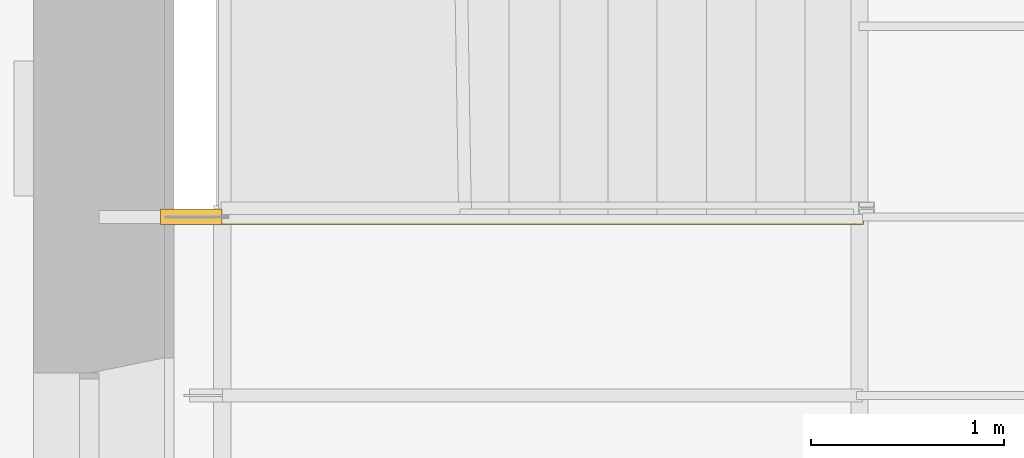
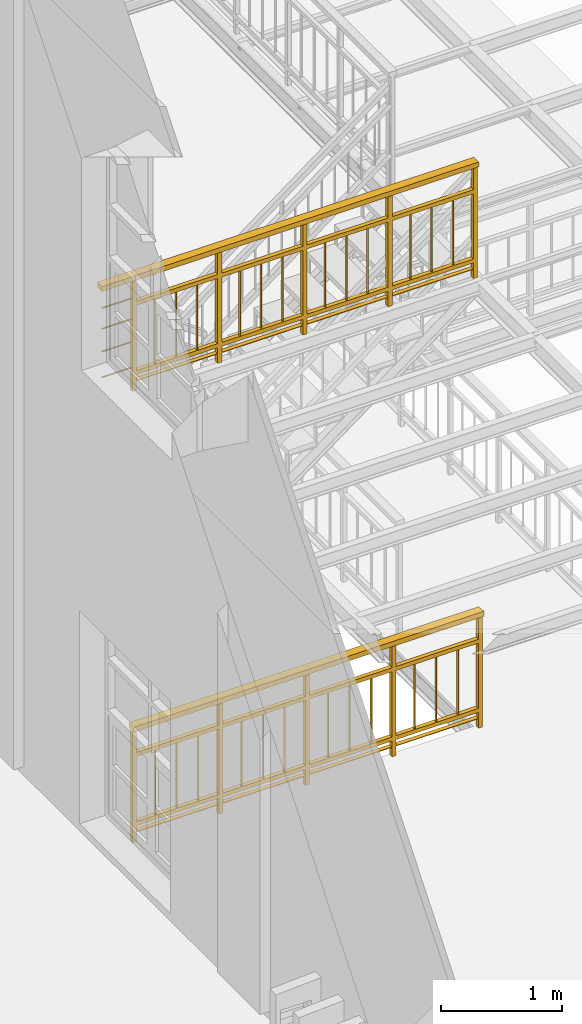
# One storey, part 26 of 33: 3 railings.
"""IFC2X3 building model written with IfcOpenShell, lengths in metres."""

from ifc_helpers import new_model, entity, si_unit, converted_unit, derived_unit, direction, frame, origin, place, context, subcontext, project, spatial, faceted_brep, element, save


model = new_model("IFC2X3")

# Units and contexts
model_context = context("Model", 3, precision=1e-05, world=origin(), true_north=direction((6.12303176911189e-17, 1.0)))
body_context = subcontext(model_context, "Body", "Model", "MODEL_VIEW")
ifc_project = project(units=[si_unit("LENGTHUNIT", "METRE"), si_unit("AREAUNIT", "SQUARE_METRE"), si_unit("VOLUMEUNIT", "CUBIC_METRE"), converted_unit("PLANEANGLEUNIT", "DEGREE", entity("IfcRatioMeasure", 0.0174532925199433), si_unit("PLANEANGLEUNIT", "RADIAN"), dimensions=[0, 0, 0, 0, 0, 0, 0]), si_unit("MASSUNIT", "GRAM", prefix="KILO"), derived_unit("MASSDENSITYUNIT", [(si_unit("MASSUNIT", "GRAM", prefix="KILO"), 1), (si_unit("LENGTHUNIT", "METRE"), -3)]), derived_unit("MOMENTOFINERTIAUNIT", [(si_unit("LENGTHUNIT", "METRE"), 4)]), si_unit("TIMEUNIT", "SECOND"), si_unit("FREQUENCYUNIT", "HERTZ"), si_unit("THERMODYNAMICTEMPERATUREUNIT", "DEGREE_CELSIUS"), derived_unit("THERMALTRANSMITTANCEUNIT", [(si_unit("MASSUNIT", "GRAM", prefix="KILO"), 1), (si_unit("THERMODYNAMICTEMPERATUREUNIT", "KELVIN"), -1), (si_unit("TIMEUNIT", "SECOND"), -3)]), derived_unit("VOLUMETRICFLOWRATEUNIT", [(si_unit("LENGTHUNIT", "METRE"), 3), (si_unit("TIMEUNIT", "SECOND"), -1)]), si_unit("ELECTRICCURRENTUNIT", "AMPERE"), si_unit("ELECTRICVOLTAGEUNIT", "VOLT"), si_unit("POWERUNIT", "WATT"), si_unit("FORCEUNIT", "NEWTON", prefix="KILO"), si_unit("ILLUMINANCEUNIT", "LUX"), si_unit("LUMINOUSFLUXUNIT", "LUMEN"), si_unit("LUMINOUSINTENSITYUNIT", "CANDELA"), derived_unit("USERDEFINED", [(si_unit("MASSUNIT", "GRAM", prefix="KILO"), -1), (si_unit("LENGTHUNIT", "METRE"), -2), (si_unit("TIMEUNIT", "SECOND"), 3), (si_unit("LUMINOUSFLUXUNIT", "LUMEN"), 1)]), derived_unit("LINEARVELOCITYUNIT", [(si_unit("LENGTHUNIT", "METRE"), 1), (si_unit("TIMEUNIT", "SECOND"), -1)]), si_unit("PRESSUREUNIT", "PASCAL"), derived_unit("USERDEFINED", [(si_unit("LENGTHUNIT", "METRE"), -2), (si_unit("MASSUNIT", "GRAM", prefix="KILO"), 1), (si_unit("TIMEUNIT", "SECOND"), -2)]), derived_unit("LINEARFORCEUNIT", [(si_unit("MASSUNIT", "GRAM", prefix="KILO"), 1), (si_unit("LENGTHUNIT", "METRE"), 1), (si_unit("TIMEUNIT", "SECOND"), -2), (si_unit("LENGTHUNIT", "METRE"), -1)]), derived_unit("PLANARFORCEUNIT", [(si_unit("MASSUNIT", "GRAM", prefix="KILO"), 1), (si_unit("LENGTHUNIT", "METRE"), 1), (si_unit("TIMEUNIT", "SECOND"), -2), (si_unit("LENGTHUNIT", "METRE"), -2)])], contexts=[model_context])

# Site, building, storey
site_placement = place(None, origin())
site = spatial("IfcSite", under=ifc_project, at=site_placement, Name="Superficie", CompositionType="ELEMENT")
building_placement = place(site_placement, origin())
building = spatial("IfcBuilding", under=site, at=building_placement, Name="Telegestiones", CompositionType="ELEMENT")
storey_placement = place(building_placement, frame((0.0, 0.0, 4.94)))
storey = spatial("IfcBuildingStorey", under=building, at=storey_placement, Name="Nivel 1_NPT", CompositionType="ELEMENT", Elevation=4.94)

# Railings
railing_1_placement = place(storey_placement, frame((6.31509070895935, 1.44459406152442, 0.0)))
element("IfcRailing", 1, at=railing_1_placement, inside=storey, Name="Barandilla:ARQ-BA-IN-118-Hi-Ba1", ObjectType="Barandilla:ARQ-BA-IN-118-Hi-Ba1", PredefinedType="NOTDEFINED", context=body_context, shape_type="Brep", body=[
    faceted_brep([(0.226857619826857, 0.05, 0.2), (0.216857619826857, 0.0400000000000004, 0.2), (0.216857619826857, 0.0400000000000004, 0.859999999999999), (0.226857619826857, 0.05, 0.859999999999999), (0.226857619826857, 0.0300000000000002, 0.2), (0.226857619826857, 0.0300000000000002, 0.859999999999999), (0.236857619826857, 0.0400000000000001, 0.2), (0.236857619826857, 0.0400000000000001, 0.859999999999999)], [[[0, 1, 2, 3]], [[2, 1, 4, 5]], [[5, 4, 6, 7]], [[7, 6, 0, 3]], [[3, 2, 5, 7]], [[0, 6, 4, 1]]]),
    faceted_brep([(0.433715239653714, 0.05, 0.2), (0.423715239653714, 0.0400000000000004, 0.2), (0.423715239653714, 0.0400000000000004, 0.859999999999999), (0.433715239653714, 0.05, 0.859999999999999), (0.433715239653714, 0.0300000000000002, 0.2), (0.433715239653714, 0.0300000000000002, 0.859999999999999), (0.443715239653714, 0.0400000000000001, 0.2), (0.443715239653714, 0.0400000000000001, 0.859999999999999)], [[[0, 1, 2, 3]], [[2, 1, 4, 5]], [[5, 4, 6, 7]], [[7, 6, 0, 3]], [[3, 2, 5, 7]], [[0, 6, 4, 1]]]),
    faceted_brep([(0.640572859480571, 0.05, 0.2), (0.630572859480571, 0.0400000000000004, 0.2), (0.630572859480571, 0.0400000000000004, 0.859999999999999), (0.640572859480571, 0.05, 0.859999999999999), (0.640572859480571, 0.0300000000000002, 0.2), (0.640572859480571, 0.0300000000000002, 0.859999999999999), (0.65057285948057, 0.0400000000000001, 0.2), (0.65057285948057, 0.0400000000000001, 0.859999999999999)], [[[0, 1, 2, 3]], [[2, 1, 4, 5]], [[5, 4, 6, 7]], [[7, 6, 0, 3]], [[3, 2, 5, 7]], [[0, 6, 4, 1]]]),
    faceted_brep([(0.867430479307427, 0.0200000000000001, 1.13), (0.867430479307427, 0.0200000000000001, 0.0), (0.867430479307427, 0.0600000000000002, 0.0), (0.867430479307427, 0.0600000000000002, 1.13), (0.827430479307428, 0.0600000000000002, 0.0), (0.827430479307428, 0.0600000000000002, 1.13), (0.827430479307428, 0.0200000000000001, 0.0), (0.827430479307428, 0.0200000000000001, 1.13)], [[[0, 1, 2, 3]], [[3, 2, 4, 5]], [[5, 4, 6, 7]], [[1, 0, 7, 6]], [[0, 3, 5, 7]], [[2, 1, 6, 4]]]),
    faceted_brep([(1.05428809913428, 0.05, 0.2), (1.04428809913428, 0.0400000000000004, 0.2), (1.04428809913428, 0.0400000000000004, 0.859999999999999), (1.05428809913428, 0.05, 0.859999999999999), (1.05428809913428, 0.0300000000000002, 0.2), (1.05428809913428, 0.0300000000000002, 0.859999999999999), (1.06428809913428, 0.0400000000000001, 0.2), (1.06428809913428, 0.0400000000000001, 0.859999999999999)], [[[0, 1, 2, 3]], [[2, 1, 4, 5]], [[5, 4, 6, 7]], [[7, 6, 0, 3]], [[3, 2, 5, 7]], [[0, 6, 4, 1]]]),
    faceted_brep([(1.26114571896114, 0.05, 0.2), (1.25114571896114, 0.0400000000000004, 0.2), (1.25114571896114, 0.0400000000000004, 0.859999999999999), (1.26114571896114, 0.05, 0.859999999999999), (1.26114571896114, 0.0300000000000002, 0.2), (1.26114571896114, 0.0300000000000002, 0.859999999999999), (1.27114571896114, 0.0400000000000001, 0.2), (1.27114571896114, 0.0400000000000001, 0.859999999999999)], [[[0, 1, 2, 3]], [[2, 1, 4, 5]], [[5, 4, 6, 7]], [[7, 6, 0, 3]], [[3, 2, 5, 7]], [[0, 6, 4, 1]]]),
    faceted_brep([(1.468003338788, 0.05, 0.2), (1.458003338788, 0.0400000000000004, 0.2), (1.458003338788, 0.0400000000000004, 0.859999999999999), (1.468003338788, 0.05, 0.859999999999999), (1.468003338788, 0.0300000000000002, 0.2), (1.468003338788, 0.0300000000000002, 0.859999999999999), (1.478003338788, 0.0400000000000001, 0.2), (1.478003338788, 0.0400000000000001, 0.859999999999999)], [[[0, 1, 2, 3]], [[2, 1, 4, 5]], [[5, 4, 6, 7]], [[7, 6, 0, 3]], [[3, 2, 5, 7]], [[0, 6, 4, 1]]]),
    faceted_brep([(1.69486095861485, 0.0200000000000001, 1.13), (1.69486095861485, 0.0200000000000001, 0.0), (1.69486095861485, 0.0600000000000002, 0.0), (1.69486095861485, 0.0600000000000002, 1.13), (1.65486095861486, 0.0600000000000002, 0.0), (1.65486095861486, 0.0600000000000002, 1.13), (1.65486095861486, 0.0200000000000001, 0.0), (1.65486095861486, 0.0200000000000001, 1.13)], [[[0, 1, 2, 3]], [[3, 2, 4, 5]], [[5, 4, 6, 7]], [[1, 0, 7, 6]], [[0, 3, 5, 7]], [[2, 1, 6, 4]]]),
    faceted_brep([(1.88171857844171, 0.05, 0.2), (1.87171857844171, 0.0400000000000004, 0.2), (1.87171857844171, 0.0400000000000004, 0.859999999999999), (1.88171857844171, 0.05, 0.859999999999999), (1.88171857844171, 0.0300000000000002, 0.2), (1.88171857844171, 0.0300000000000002, 0.859999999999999), (1.89171857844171, 0.0400000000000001, 0.2), (1.89171857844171, 0.0400000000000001, 0.859999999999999)], [[[0, 1, 2, 3]], [[2, 1, 4, 5]], [[5, 4, 6, 7]], [[7, 6, 0, 3]], [[3, 2, 5, 7]], [[0, 6, 4, 1]]]),
    faceted_brep([(2.08857619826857, 0.05, 0.2), (2.07857619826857, 0.0400000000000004, 0.2), (2.07857619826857, 0.0400000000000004, 0.859999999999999), (2.08857619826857, 0.05, 0.859999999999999), (2.08857619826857, 0.0300000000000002, 0.2), (2.08857619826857, 0.0300000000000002, 0.859999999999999), (2.09857619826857, 0.0400000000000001, 0.2), (2.09857619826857, 0.0400000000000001, 0.859999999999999)], [[[0, 1, 2, 3]], [[2, 1, 4, 5]], [[5, 4, 6, 7]], [[7, 6, 0, 3]], [[3, 2, 5, 7]], [[0, 6, 4, 1]]]),
    faceted_brep([(2.29543381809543, 0.05, 0.2), (2.28543381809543, 0.0400000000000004, 0.2), (2.28543381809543, 0.0400000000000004, 0.859999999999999), (2.29543381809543, 0.05, 0.859999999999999), (2.29543381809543, 0.0300000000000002, 0.2), (2.29543381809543, 0.0300000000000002, 0.859999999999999), (2.30543381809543, 0.0400000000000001, 0.2), (2.30543381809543, 0.0400000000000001, 0.859999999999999)], [[[0, 1, 2, 3]], [[2, 1, 4, 5]], [[5, 4, 6, 7]], [[7, 6, 0, 3]], [[3, 2, 5, 7]], [[0, 6, 4, 1]]]),
    faceted_brep([(2.52229143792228, 0.0200000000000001, 1.13), (2.52229143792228, 0.0200000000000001, 0.0), (2.52229143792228, 0.0600000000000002, 0.0), (2.52229143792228, 0.0600000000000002, 1.13), (2.48229143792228, 0.0600000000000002, 0.0), (2.48229143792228, 0.0600000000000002, 1.13), (2.48229143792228, 0.0200000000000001, 0.0), (2.48229143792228, 0.0200000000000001, 1.13)], [[[0, 1, 2, 3]], [[3, 2, 4, 5]], [[5, 4, 6, 7]], [[1, 0, 7, 6]], [[0, 3, 5, 7]], [[2, 1, 6, 4]]]),
    faceted_brep([(2.70914905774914, 0.05, 0.2), (2.69914905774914, 0.0400000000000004, 0.2), (2.69914905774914, 0.0400000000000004, 0.859999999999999), (2.70914905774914, 0.05, 0.859999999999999), (2.70914905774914, 0.0300000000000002, 0.2), (2.70914905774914, 0.0300000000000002, 0.859999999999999), (2.71914905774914, 0.0400000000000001, 0.2), (2.71914905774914, 0.0400000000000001, 0.859999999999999)], [[[0, 1, 2, 3]], [[2, 1, 4, 5]], [[5, 4, 6, 7]], [[7, 6, 0, 3]], [[3, 2, 5, 7]], [[0, 6, 4, 1]]]),
    faceted_brep([(2.916006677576, 0.05, 0.2), (2.906006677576, 0.0400000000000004, 0.2), (2.906006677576, 0.0400000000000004, 0.859999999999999), (2.916006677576, 0.05, 0.859999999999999), (2.916006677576, 0.0300000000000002, 0.2), (2.916006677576, 0.0300000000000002, 0.859999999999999), (2.926006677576, 0.0400000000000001, 0.2), (2.926006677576, 0.0400000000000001, 0.859999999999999)], [[[0, 1, 2, 3]], [[2, 1, 4, 5]], [[5, 4, 6, 7]], [[7, 6, 0, 3]], [[3, 2, 5, 7]], [[0, 6, 4, 1]]]),
    faceted_brep([(3.12286429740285, 0.05, 0.2), (3.11286429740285, 0.0400000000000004, 0.2), (3.11286429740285, 0.0400000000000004, 0.859999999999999), (3.12286429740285, 0.05, 0.859999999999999), (3.12286429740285, 0.0300000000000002, 0.2), (3.12286429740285, 0.0300000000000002, 0.859999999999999), (3.13286429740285, 0.0400000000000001, 0.2), (3.13286429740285, 0.0400000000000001, 0.859999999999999)], [[[0, 1, 2, 3]], [[2, 1, 4, 5]], [[5, 4, 6, 7]], [[7, 6, 0, 3]], [[3, 2, 5, 7]], [[0, 6, 4, 1]]]),
    faceted_brep([(0.0399999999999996, 0.0200000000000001, 1.13), (0.0399999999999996, 0.0200000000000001, 0.0), (0.0399999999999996, 0.0600000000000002, 0.0), (0.0399999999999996, 0.0600000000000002, 1.13), (0.0, 0.0600000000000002, 0.0), (0.0, 0.0600000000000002, 1.13), (0.0, 0.0200000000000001, 0.0), (0.0, 0.0200000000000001, 1.13)], [[[0, 1, 2, 3]], [[3, 2, 4, 5]], [[5, 4, 6, 7]], [[1, 0, 7, 6]], [[0, 3, 5, 7]], [[2, 1, 6, 4]]]),
    faceted_brep([(3.34972191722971, 0.0200000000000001, 1.13), (3.34972191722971, 0.0200000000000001, 0.0), (3.34972191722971, 0.0600000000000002, 0.0), (3.34972191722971, 0.0600000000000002, 1.13), (3.30972191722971, 0.0600000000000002, 0.0), (3.30972191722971, 0.0600000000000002, 1.13), (3.30972191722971, 0.0200000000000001, 0.0), (3.30972191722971, 0.0200000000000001, 1.13)], [[[0, 1, 2, 3]], [[3, 2, 4, 5]], [[5, 4, 6, 7]], [[1, 0, 7, 6]], [[0, 3, 5, 7]], [[2, 1, 6, 4]]]),
    faceted_brep([(3.32972191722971, 0.0600000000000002, 0.9), (3.32972191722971, 0.0200000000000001, 0.9), (3.32972191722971, 0.0200000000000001, 0.860000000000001), (3.32972191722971, 0.0600000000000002, 0.860000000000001), (0.0199999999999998, 0.0600000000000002, 0.9), (0.0199999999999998, 0.0600000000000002, 0.860000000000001), (0.0199999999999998, 0.0200000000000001, 0.860000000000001), (0.0199999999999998, 0.0200000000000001, 0.9)], [[[0, 1, 2, 3]], [[4, 5, 6, 7]], [[1, 0, 4, 7]], [[2, 1, 7, 6]], [[3, 2, 6, 5]], [[0, 3, 5, 4]]]),
    faceted_brep([(3.32972191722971, 0.0600000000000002, 0.2), (3.32972191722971, 0.0200000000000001, 0.2), (3.32972191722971, 0.0200000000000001, 0.16), (3.32972191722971, 0.0600000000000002, 0.16), (0.0199999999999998, 0.0600000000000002, 0.2), (0.0199999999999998, 0.0600000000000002, 0.16), (0.0199999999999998, 0.0200000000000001, 0.16), (0.0199999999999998, 0.0200000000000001, 0.2)], [[[0, 1, 2, 3]], [[4, 5, 6, 7]], [[1, 0, 4, 7]], [[2, 1, 7, 6]], [[3, 2, 6, 5]], [[0, 3, 5, 4]]]),
    faceted_brep([(3.32972191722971, 0.0600000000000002, 0.1), (3.32972191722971, 0.0200000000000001, 0.1), (3.32972191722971, 0.0200000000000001, 0.0940000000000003), (3.32972191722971, 0.0600000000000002, 0.0940000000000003), (0.0199999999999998, 0.0600000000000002, 0.1), (0.0199999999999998, 0.0600000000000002, 0.0940000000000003), (0.0199999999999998, 0.0200000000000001, 0.0940000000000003), (0.0199999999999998, 0.0200000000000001, 0.1)], [[[0, 1, 2, 3]], [[4, 5, 6, 7]], [[2, 1, 7, 6]], [[1, 0, 4, 7]], [[3, 2, 6, 5]], [[0, 3, 5, 4]]]),
    faceted_brep([(3.34972191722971, 0.0, 1.18), (3.34972191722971, 0.0, 1.13), (3.34972191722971, 0.0800000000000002, 1.13), (3.34972191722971, 0.0800000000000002, 1.18), (3.32972191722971, 0.0, 1.18), (3.32972191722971, 0.0, 1.13), (3.32972191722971, 0.0800000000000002, 1.13), (3.32972191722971, 0.0800000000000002, 1.18), (0.0199999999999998, 0.0, 1.18), (0.0199999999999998, 0.0, 1.13), (0.0199999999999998, 0.0800000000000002, 1.13), (0.0199999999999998, 0.0800000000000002, 1.18), (0.0, 0.0, 1.18), (0.0, 0.0800000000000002, 1.18), (0.0, 0.0799999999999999, 1.13), (0.0, 0.0, 1.13)], [[[0, 1, 2, 3]], [[1, 0, 4, 5]], [[2, 1, 5, 6]], [[3, 2, 6, 7]], [[0, 3, 7, 4]], [[5, 4, 8, 9]], [[6, 5, 9, 10]], [[7, 6, 10, 11]], [[4, 7, 11, 8]], [[12, 13, 14, 15]], [[9, 8, 12, 15]], [[10, 9, 15, 14]], [[11, 10, 14, 13]], [[8, 11, 13, 12]]]),
])
railing_2_placement = place(storey_placement, frame((6.01428977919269, 1.44460722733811, 4.78340472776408)))
element("IfcRailing", 2, at=railing_2_placement, inside=storey, Name="Barandilla:ARQ-BA-IN-HiGal-Varillas 2", ObjectType="Barandilla:ARQ-BA-IN-HiGal-Varillas 2", PredefinedType="NOTDEFINED", context=body_context, shape_type="Brep", body=[
    faceted_brep([(0.300000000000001, 0.0325000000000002, 0.709095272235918), (0.300000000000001, 0.0362500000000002, 0.702600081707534), (0.300000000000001, 0.0437500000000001, 0.702600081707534), (0.300000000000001, 0.0475, 0.709095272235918), (0.300000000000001, 0.0437500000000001, 0.715590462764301), (0.300000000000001, 0.0362500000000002, 0.715590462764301), (0.0199999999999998, 0.0437500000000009, 0.715590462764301), (0.0199999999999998, 0.0475000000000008, 0.709095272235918), (0.0199999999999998, 0.0437500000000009, 0.702600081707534), (0.0199999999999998, 0.036250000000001, 0.702600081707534), (0.0199999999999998, 0.032500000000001, 0.709095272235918), (0.0199999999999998, 0.036250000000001, 0.715590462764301)], [[[0, 1, 2, 3, 4, 5]], [[6, 7, 8, 9, 10, 11]], [[10, 9, 1, 0]], [[9, 8, 2, 1]], [[8, 7, 3, 2]], [[7, 6, 4, 3]], [[6, 11, 5, 4]], [[11, 10, 0, 5]]]),
    faceted_brep([(0.300000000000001, 0.0325000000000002, 0.499095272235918), (0.300000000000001, 0.0362500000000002, 0.492600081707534), (0.300000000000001, 0.0437500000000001, 0.492600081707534), (0.300000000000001, 0.0475, 0.499095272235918), (0.300000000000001, 0.0437500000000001, 0.505590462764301), (0.300000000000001, 0.0362500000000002, 0.505590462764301), (0.0199999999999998, 0.0437500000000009, 0.505590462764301), (0.0199999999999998, 0.0475000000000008, 0.499095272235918), (0.0199999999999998, 0.0437500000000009, 0.492600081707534), (0.0199999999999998, 0.036250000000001, 0.492600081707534), (0.0199999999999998, 0.032500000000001, 0.499095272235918), (0.0199999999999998, 0.036250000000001, 0.505590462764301)], [[[0, 1, 2, 3, 4, 5]], [[6, 7, 8, 9, 10, 11]], [[10, 9, 1, 0]], [[9, 8, 2, 1]], [[8, 7, 3, 2]], [[7, 6, 4, 3]], [[6, 11, 5, 4]], [[11, 10, 0, 5]]]),
    faceted_brep([(0.300000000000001, 0.0325000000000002, 0.269095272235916), (0.300000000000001, 0.0362500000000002, 0.262600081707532), (0.300000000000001, 0.0437500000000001, 0.262600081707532), (0.300000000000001, 0.0475, 0.269095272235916), (0.300000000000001, 0.0437500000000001, 0.275590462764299), (0.300000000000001, 0.0362500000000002, 0.275590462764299), (0.0199999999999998, 0.0437500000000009, 0.275590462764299), (0.0199999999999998, 0.0475000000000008, 0.269095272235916), (0.0199999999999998, 0.0437500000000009, 0.262600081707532), (0.0199999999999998, 0.036250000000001, 0.262600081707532), (0.0199999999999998, 0.032500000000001, 0.269095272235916), (0.0199999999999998, 0.036250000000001, 0.275590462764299)], [[[0, 1, 2, 3, 4, 5]], [[6, 7, 8, 9, 10, 11]], [[10, 9, 1, 0]], [[9, 8, 2, 1]], [[8, 7, 3, 2]], [[7, 6, 4, 3]], [[6, 11, 5, 4]], [[11, 10, 0, 5]]]),
    faceted_brep([(0.300000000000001, 0.0437500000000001, 0.0155904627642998), (0.300000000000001, 0.0362500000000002, 0.0155904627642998), (0.300000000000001, 0.0325000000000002, 0.00909527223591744), (0.300000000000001, 0.0362500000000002, 0.00260008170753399), (0.300000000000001, 0.0437500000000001, 0.00260008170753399), (0.300000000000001, 0.0475, 0.00909527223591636), (0.0199999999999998, 0.0475000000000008, 0.00909527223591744), (0.0199999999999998, 0.0437500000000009, 0.00260008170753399), (0.0199999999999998, 0.036250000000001, 0.00260008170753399), (0.0199999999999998, 0.032500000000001, 0.00909527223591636), (0.0199999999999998, 0.036250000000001, 0.0155904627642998), (0.0199999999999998, 0.0437500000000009, 0.0155904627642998)], [[[0, 1, 2, 3, 4, 5]], [[6, 7, 8, 9, 10, 11]], [[9, 8, 3, 2]], [[8, 7, 4, 3]], [[7, 6, 5, 4]], [[6, 11, 0, 5]], [[11, 10, 1, 0]], [[10, 9, 2, 1]]]),
    faceted_brep([(0.320000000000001, 0.0, 0.956595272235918), (0.320000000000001, 0.0, 0.906595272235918), (0.320000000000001, 0.0800000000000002, 0.906595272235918), (0.320000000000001, 0.0800000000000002, 0.956595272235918), (0.300000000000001, 0.0, 0.956595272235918), (0.300000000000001, 0.0, 0.906595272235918), (0.300000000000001, 0.0800000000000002, 0.906595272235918), (0.300000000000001, 0.0800000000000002, 0.956595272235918), (0.0199999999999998, 0.0, 0.956595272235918), (0.0199999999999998, 0.0, 0.906595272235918), (0.0199999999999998, 0.080000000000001, 0.906595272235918), (0.0199999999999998, 0.080000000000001, 0.956595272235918), (0.0, 0.0, 0.956595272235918), (0.0, 0.0800000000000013, 0.956595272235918), (0.0, 0.080000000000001, 0.906595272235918), (0.0, 0.0, 0.906595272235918)], [[[0, 1, 2, 3]], [[1, 0, 4, 5]], [[2, 1, 5, 6]], [[3, 2, 6, 7]], [[0, 3, 7, 4]], [[5, 4, 8, 9]], [[6, 5, 9, 10]], [[7, 6, 10, 11]], [[4, 7, 11, 8]], [[12, 13, 14, 15]], [[9, 8, 12, 15]], [[10, 9, 15, 14]], [[11, 10, 14, 13]], [[8, 11, 13, 12]]]),
])
railing_3_placement = place(storey_placement, frame((6.31481262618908, 1.44560722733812, 4.56)))
element("IfcRailing", 3, at=railing_3_placement, inside=storey, Name="Barandilla:ARQ-BA-IN-118-Hi-Ba1", ObjectType="Barandilla:ARQ-BA-IN-118-Hi-Ba1", PredefinedType="NOTDEFINED", context=body_context, shape_type="Brep", body=[
    faceted_brep([(3.07812499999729, 0.030000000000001, 0.2), (3.08812499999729, 0.0400000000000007, 0.2), (3.08812499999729, 0.0400000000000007, 0.859999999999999), (3.07812499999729, 0.030000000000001, 0.859999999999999), (3.07812499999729, 0.0500000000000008, 0.2), (3.07812499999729, 0.0500000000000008, 0.859999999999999), (3.06812499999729, 0.0400000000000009, 0.2), (3.06812499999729, 0.0400000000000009, 0.859999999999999)], [[[0, 1, 2, 3]], [[2, 1, 4, 5]], [[5, 4, 6, 7]], [[7, 6, 0, 3]], [[3, 2, 5, 7]], [[0, 6, 4, 1]]]),
    faceted_brep([(2.87424999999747, 0.0300000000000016, 0.2), (2.88424999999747, 0.0400000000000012, 0.2), (2.88424999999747, 0.0400000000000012, 0.859999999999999), (2.87424999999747, 0.0300000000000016, 0.859999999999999), (2.87424999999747, 0.0500000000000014, 0.2), (2.87424999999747, 0.0500000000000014, 0.859999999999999), (2.86424999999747, 0.0400000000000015, 0.2), (2.86424999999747, 0.0400000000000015, 0.859999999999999)], [[[0, 1, 2, 3]], [[2, 1, 4, 5]], [[5, 4, 6, 7]], [[7, 6, 0, 3]], [[3, 2, 5, 7]], [[0, 6, 4, 1]]]),
    faceted_brep([(2.67037499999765, 0.0300000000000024, 0.2), (2.68037499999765, 0.040000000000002, 0.2), (2.68037499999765, 0.040000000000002, 0.859999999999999), (2.67037499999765, 0.0300000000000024, 0.859999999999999), (2.67037499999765, 0.0500000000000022, 0.2), (2.67037499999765, 0.0500000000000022, 0.859999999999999), (2.66037499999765, 0.0400000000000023, 0.2), (2.66037499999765, 0.0400000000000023, 0.859999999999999)], [[[0, 1, 2, 3]], [[2, 1, 4, 5]], [[5, 4, 6, 7]], [[7, 6, 0, 3]], [[3, 2, 5, 7]], [[0, 6, 4, 1]]]),
    faceted_brep([(2.44649999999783, 0.0600000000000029, 1.13), (2.44649999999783, 0.0600000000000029, 0.0), (2.44649999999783, 0.0200000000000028, 0.0), (2.44649999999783, 0.0200000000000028, 1.13), (2.48649999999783, 0.0200000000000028, 0.0), (2.48649999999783, 0.0200000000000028, 1.13), (2.48649999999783, 0.0600000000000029, 0.0), (2.48649999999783, 0.0600000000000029, 1.13)], [[[0, 1, 2, 3]], [[3, 2, 4, 5]], [[5, 4, 6, 7]], [[1, 0, 7, 6]], [[0, 3, 5, 7]], [[2, 1, 6, 4]]]),
    faceted_brep([(2.26262499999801, 0.0300000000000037, 0.2), (2.27262499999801, 0.0400000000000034, 0.2), (2.27262499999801, 0.0400000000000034, 0.859999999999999), (2.26262499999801, 0.0300000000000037, 0.859999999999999), (2.26262499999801, 0.0500000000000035, 0.2), (2.26262499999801, 0.0500000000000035, 0.859999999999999), (2.25262499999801, 0.0400000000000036, 0.2), (2.25262499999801, 0.0400000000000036, 0.859999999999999)], [[[0, 1, 2, 3]], [[2, 1, 4, 5]], [[5, 4, 6, 7]], [[7, 6, 0, 3]], [[3, 2, 5, 7]], [[0, 6, 4, 1]]]),
    faceted_brep([(2.05874999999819, 0.0300000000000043, 0.2), (2.06874999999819, 0.0400000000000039, 0.2), (2.06874999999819, 0.0400000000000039, 0.859999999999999), (2.05874999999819, 0.0300000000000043, 0.859999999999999), (2.05874999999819, 0.0500000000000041, 0.2), (2.05874999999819, 0.0500000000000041, 0.859999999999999), (2.04874999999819, 0.0400000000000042, 0.2), (2.04874999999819, 0.0400000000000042, 0.859999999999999)], [[[0, 1, 2, 3]], [[2, 1, 4, 5]], [[5, 4, 6, 7]], [[7, 6, 0, 3]], [[3, 2, 5, 7]], [[0, 6, 4, 1]]]),
    faceted_brep([(1.85487499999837, 0.0300000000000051, 0.2), (1.86487499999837, 0.0400000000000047, 0.2), (1.86487499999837, 0.0400000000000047, 0.859999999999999), (1.85487499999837, 0.0300000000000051, 0.859999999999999), (1.85487499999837, 0.0500000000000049, 0.2), (1.85487499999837, 0.0500000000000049, 0.859999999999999), (1.84487499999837, 0.040000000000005, 0.2), (1.84487499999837, 0.040000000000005, 0.859999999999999)], [[[0, 1, 2, 3]], [[2, 1, 4, 5]], [[5, 4, 6, 7]], [[7, 6, 0, 3]], [[3, 2, 5, 7]], [[0, 6, 4, 1]]]),
    faceted_brep([(1.63099999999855, 0.0600000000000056, 1.13), (1.63099999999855, 0.0600000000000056, 0.0), (1.63099999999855, 0.0200000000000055, 0.0), (1.63099999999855, 0.0200000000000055, 1.13), (1.67099999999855, 0.0200000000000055, 0.0), (1.67099999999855, 0.0200000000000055, 1.13), (1.67099999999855, 0.0600000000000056, 0.0), (1.67099999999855, 0.0600000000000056, 1.13)], [[[0, 1, 2, 3]], [[3, 2, 4, 5]], [[5, 4, 6, 7]], [[1, 0, 7, 6]], [[0, 3, 5, 7]], [[2, 1, 6, 4]]]),
    faceted_brep([(1.44712499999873, 0.0300000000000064, 0.2), (1.45712499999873, 0.0400000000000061, 0.2), (1.45712499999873, 0.0400000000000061, 0.859999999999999), (1.44712499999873, 0.0300000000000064, 0.859999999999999), (1.44712499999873, 0.0500000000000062, 0.2), (1.44712499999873, 0.0500000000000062, 0.859999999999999), (1.43712499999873, 0.0400000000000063, 0.2), (1.43712499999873, 0.0400000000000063, 0.859999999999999)], [[[0, 1, 2, 3]], [[2, 1, 4, 5]], [[5, 4, 6, 7]], [[7, 6, 0, 3]], [[3, 2, 5, 7]], [[0, 6, 4, 1]]]),
    faceted_brep([(1.24324999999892, 0.030000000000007, 0.2), (1.25324999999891, 0.0400000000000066, 0.2), (1.25324999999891, 0.0400000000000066, 0.859999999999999), (1.24324999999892, 0.030000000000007, 0.859999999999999), (1.24324999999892, 0.0500000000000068, 0.2), (1.24324999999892, 0.0500000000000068, 0.859999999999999), (1.23324999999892, 0.0400000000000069, 0.2), (1.23324999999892, 0.0400000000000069, 0.859999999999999)], [[[0, 1, 2, 3]], [[2, 1, 4, 5]], [[5, 4, 6, 7]], [[7, 6, 0, 3]], [[3, 2, 5, 7]], [[0, 6, 4, 1]]]),
    faceted_brep([(1.0393749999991, 0.0300000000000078, 0.2), (1.0493749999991, 0.0400000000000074, 0.2), (1.0493749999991, 0.0400000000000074, 0.859999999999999), (1.0393749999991, 0.0300000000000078, 0.859999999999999), (1.0393749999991, 0.0500000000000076, 0.2), (1.0393749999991, 0.0500000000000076, 0.859999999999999), (1.0293749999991, 0.0400000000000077, 0.2), (1.0293749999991, 0.0400000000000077, 0.859999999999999)], [[[0, 1, 2, 3]], [[2, 1, 4, 5]], [[5, 4, 6, 7]], [[7, 6, 0, 3]], [[3, 2, 5, 7]], [[0, 6, 4, 1]]]),
    faceted_brep([(0.815499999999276, 0.0600000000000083, 1.13), (0.815499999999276, 0.0600000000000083, 0.0), (0.815499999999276, 0.0200000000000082, 0.0), (0.815499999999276, 0.0200000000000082, 1.13), (0.855499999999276, 0.0200000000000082, 0.0), (0.855499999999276, 0.0200000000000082, 1.13), (0.855499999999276, 0.0600000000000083, 0.0), (0.855499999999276, 0.0600000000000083, 1.13)], [[[0, 1, 2, 3]], [[3, 2, 4, 5]], [[5, 4, 6, 7]], [[1, 0, 7, 6]], [[0, 3, 5, 7]], [[2, 1, 6, 4]]]),
    faceted_brep([(0.631624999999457, 0.0300000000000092, 0.2), (0.641624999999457, 0.0400000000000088, 0.2), (0.641624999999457, 0.0400000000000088, 0.859999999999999), (0.631624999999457, 0.0300000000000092, 0.859999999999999), (0.631624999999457, 0.0500000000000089, 0.2), (0.631624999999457, 0.0500000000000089, 0.859999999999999), (0.621624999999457, 0.040000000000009, 0.2), (0.621624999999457, 0.040000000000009, 0.859999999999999)], [[[0, 1, 2, 3]], [[2, 1, 4, 5]], [[5, 4, 6, 7]], [[7, 6, 0, 3]], [[3, 2, 5, 7]], [[0, 6, 4, 1]]]),
    faceted_brep([(0.427749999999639, 0.0300000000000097, 0.2), (0.437749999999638, 0.0400000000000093, 0.2), (0.437749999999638, 0.0400000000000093, 0.859999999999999), (0.427749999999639, 0.0300000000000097, 0.859999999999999), (0.427749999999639, 0.0500000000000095, 0.2), (0.427749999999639, 0.0500000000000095, 0.859999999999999), (0.417749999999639, 0.0400000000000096, 0.2), (0.417749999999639, 0.0400000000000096, 0.859999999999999)], [[[0, 1, 2, 3]], [[2, 1, 4, 5]], [[5, 4, 6, 7]], [[7, 6, 0, 3]], [[3, 2, 5, 7]], [[0, 6, 4, 1]]]),
    faceted_brep([(0.223874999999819, 0.0300000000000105, 0.2), (0.233874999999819, 0.0400000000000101, 0.2), (0.233874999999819, 0.0400000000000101, 0.859999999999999), (0.223874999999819, 0.0300000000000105, 0.859999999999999), (0.223874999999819, 0.0500000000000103, 0.2), (0.223874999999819, 0.0500000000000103, 0.859999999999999), (0.213874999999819, 0.0400000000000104, 0.2), (0.213874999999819, 0.0400000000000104, 0.859999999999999)], [[[0, 1, 2, 3]], [[2, 1, 4, 5]], [[5, 4, 6, 7]], [[7, 6, 0, 3]], [[3, 2, 5, 7]], [[0, 6, 4, 1]]]),
    faceted_brep([(3.26199999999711, 0.0600000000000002, 1.13), (3.26199999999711, 0.0600000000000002, 0.0), (3.26199999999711, 0.0200000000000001, 0.0), (3.26199999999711, 0.0200000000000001, 1.13), (3.30199999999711, 0.0200000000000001, 0.0), (3.30199999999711, 0.0200000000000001, 1.13), (3.30199999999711, 0.0600000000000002, 0.0), (3.30199999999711, 0.0600000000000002, 1.13)], [[[0, 1, 2, 3]], [[3, 2, 4, 5]], [[5, 4, 6, 7]], [[1, 0, 7, 6]], [[0, 3, 5, 7]], [[2, 1, 6, 4]]]),
    faceted_brep([(0.0, 0.060000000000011, 1.13), (0.0, 0.060000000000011, 0.0), (0.0, 0.0200000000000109, 0.0), (0.0, 0.0200000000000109, 1.13), (0.0399999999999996, 0.0200000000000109, 0.0), (0.0399999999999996, 0.0200000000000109, 1.13), (0.0399999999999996, 0.060000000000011, 0.0), (0.0399999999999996, 0.060000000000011, 1.13)], [[[0, 1, 2, 3]], [[3, 2, 4, 5]], [[5, 4, 6, 7]], [[1, 0, 7, 6]], [[0, 3, 5, 7]], [[2, 1, 6, 4]]]),
    faceted_brep([(0.0199999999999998, 0.0200000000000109, 0.899999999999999), (0.0199999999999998, 0.060000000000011, 0.899999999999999), (0.0199999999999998, 0.060000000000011, 0.859999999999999), (0.0199999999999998, 0.0200000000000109, 0.859999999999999), (3.28199999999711, 0.0200000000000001, 0.899999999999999), (3.28199999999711, 0.0200000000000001, 0.859999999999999), (3.28199999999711, 0.0600000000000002, 0.859999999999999), (3.28199999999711, 0.0600000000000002, 0.899999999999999)], [[[0, 1, 2, 3]], [[4, 5, 6, 7]], [[1, 0, 4, 7]], [[2, 1, 7, 6]], [[3, 2, 6, 5]], [[0, 3, 5, 4]]]),
    faceted_brep([(0.0199999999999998, 0.0200000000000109, 0.2), (0.0199999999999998, 0.060000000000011, 0.2), (0.0199999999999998, 0.060000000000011, 0.16), (0.0199999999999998, 0.0200000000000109, 0.16), (3.28199999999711, 0.0200000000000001, 0.2), (3.28199999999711, 0.0200000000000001, 0.16), (3.28199999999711, 0.0600000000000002, 0.16), (3.28199999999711, 0.0600000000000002, 0.2)], [[[0, 1, 2, 3]], [[4, 5, 6, 7]], [[1, 0, 4, 7]], [[2, 1, 7, 6]], [[3, 2, 6, 5]], [[0, 3, 5, 4]]]),
    faceted_brep([(0.0199999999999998, 0.0200000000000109, 0.1), (0.0199999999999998, 0.060000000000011, 0.1), (0.0199999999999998, 0.060000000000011, 0.0940000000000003), (0.0199999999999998, 0.0200000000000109, 0.0940000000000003), (3.28199999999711, 0.0200000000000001, 0.1), (3.28199999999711, 0.0200000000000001, 0.0940000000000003), (3.28199999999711, 0.0600000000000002, 0.0940000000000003), (3.28199999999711, 0.0600000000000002, 0.1)], [[[0, 1, 2, 3]], [[4, 5, 6, 7]], [[1, 0, 4, 7]], [[2, 1, 7, 6]], [[3, 2, 6, 5]], [[0, 3, 5, 4]]]),
    faceted_brep([(0.0, 0.080000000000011, 1.18), (0.0, 0.080000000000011, 1.13), (0.0, 0.0, 1.13), (0.0, 0.0, 1.18), (0.0199999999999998, 0.080000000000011, 1.18), (0.0199999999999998, 0.080000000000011, 1.13), (0.0199999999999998, 0.0, 1.13), (0.0199999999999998, 0.0, 1.18), (3.28199999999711, 0.0800000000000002, 1.18), (3.28199999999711, 0.0800000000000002, 1.13), (3.28199999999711, 0.0, 1.13), (3.28199999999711, 0.0, 1.18), (3.30199999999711, 0.0799999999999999, 1.18), (3.30199999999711, 0.0, 1.18), (3.30199999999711, 0.0, 1.13), (3.30199999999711, 0.0800000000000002, 1.13)], [[[0, 1, 2, 3]], [[1, 0, 4, 5]], [[2, 1, 5, 6]], [[3, 2, 6, 7]], [[0, 3, 7, 4]], [[5, 4, 8, 9]], [[6, 5, 9, 10]], [[7, 6, 10, 11]], [[4, 7, 11, 8]], [[12, 13, 14, 15]], [[9, 8, 12, 15]], [[10, 9, 15, 14]], [[11, 10, 14, 13]], [[8, 11, 13, 12]]]),
])

save(model, "model.ifc")
